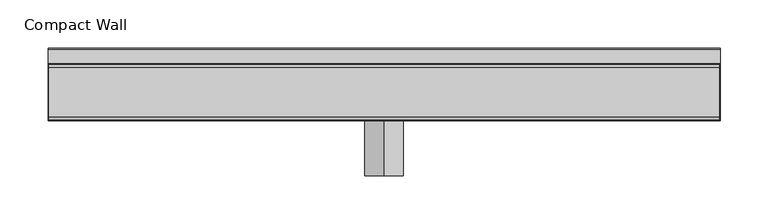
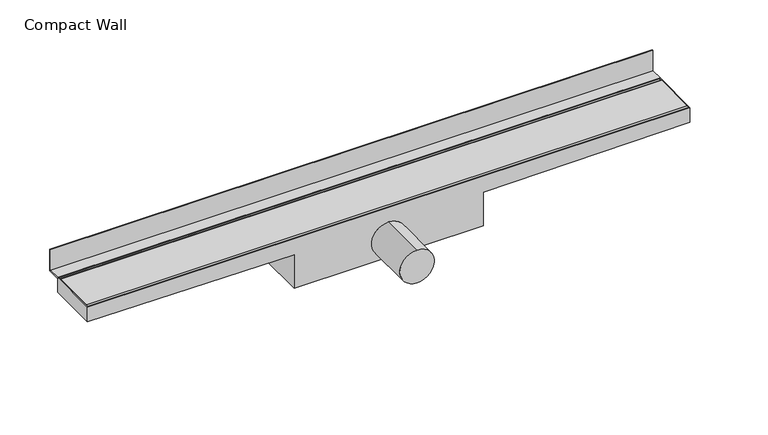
"""IFC4 building model written with IfcOpenShell, lengths in millimetres: sanitary terminal geometry, NLRS_PF_52_UN_Compact_Easydrain : Compact Wall."""

from ifc_helpers import new_model, si_unit, point, frame, frame_2d, origin, place, context, project, spatial, polyline, circle_curve, trimmed, segment, composite_curve, outline, extrude, source, transform, mapped, element, save
from ifc_brep_helpers import plane_surface, cylinder_surface, advanced_brep


def compact_wall_94ad205f(model_context):
    return source(origin(), model_context, "Body", "SolidModel", [
        extrude(outline(composite_curve([segment(polyline([(-25.5, 0.0), (25.5, 0.0)]), True, "CONTINUOUS"), segment(trimmed(circle_curve(frame_2d((25.5, -3.0)), 3.0), [point((25.5, 0.0))], [point((28.5, -3.0))], False, "CARTESIAN"), True, "CONTINUOUS"), segment(polyline([(28.5, -3.0), (28.5, -12.0), (-28.5, -12.0), (-28.5, -3.0)]), True, "CONTINUOUS"), segment(trimmed(circle_curve(frame_2d((-25.5, -3.0)), 3.0), [point((-28.5, -3.0))], [point((-25.5, 0.0))], False, "CARTESIAN"), True, "CONTINUOUS")], self_intersect=False)), frame((-249.0, 0.0, 0.0), z_axis=(1.0, 0.0, 0.0), x_axis=(0.0, 1.0, 0.0)), (0.0, 0.0, 1.0), 698.0),
        extrude(outline(polyline([(46.0, -1.5), (30.0, -1.5), (30.0, 0.0), (44.5, 0.0), (44.5, 25.0), (46.0, 25.0), (46.0, -1.5)])), frame((-250.0, 0.0, 0.0), z_axis=(1.0, 0.0, 0.0), x_axis=(0.0, 1.0, 0.0)), (0.0, 0.0, 1.0), 700.0),
        advanced_brep(
        [(-250.0, -30.0, -18.0), (-10.0, -30.0, -20.0), (-10.0, -30.0, -61.0), (210.0, -30.0, -61.0), (210.0, -30.0, -20.0), (450.0, -30.0, -18.0), (450.0, -30.0, 0.0), (-250.0, -30.0, 0.0), (100.0, -30.0, -18.0), (100.0, -30.0, -58.0), (-250.0, 30.0, -18.0), (-250.0, 30.0, 0.0), (450.0, 30.0, 0.0), (450.0, 30.0, -18.0), (210.0, 30.0, -20.0), (210.0, 30.0, -61.0), (-10.0, 30.0, -61.0), (-10.0, 30.0, -20.0), (-249.0, 29.0, 0.0), (449.0, 29.0, 0.0), (449.0, -29.0, 0.0), (-249.0, -29.0, 0.0), (100.0, -87.0466767, -18.0), (100.0, -87.0466767, -58.0), (449.0, 29.0, -12.0), (-249.0, 29.0, -12.0), (-249.0, -29.0, -12.0), (449.0, -29.0, -12.0)],
        [
            (0, 1),
            (1, 2),
            (2, 3),
            (3, 4),
            (4, 5),
            (5, 6),
            (6, 7),
            (7, 0),
            (8, 9, circle_curve(frame((100.0, -30.0, -38.0), z_axis=(0.0, 1.0, 0.0), x_axis=(0.0, 0.0, -1.0)), 20.0)),
            (9, 8, circle_curve(frame((100.0, -30.0, -38.0), z_axis=(0.0, 1.0, 0.0), x_axis=(0.0, 0.0, -1.0)), 20.0)),
            (10, 11),
            (11, 12),
            (12, 13),
            (13, 14),
            (14, 15),
            (15, 16),
            (16, 17),
            (17, 10),
            (0, 10),
            (17, 1),
            (5, 13),
            (12, 6),
            (11, 7),
            (18, 19),
            (19, 20),
            (20, 21),
            (21, 18),
            (16, 2),
            (15, 3),
            (14, 4),
            (22, 23, circle_curve(frame((100.0, -87.0466767, -38.0), z_axis=(0.0, -1.0, 0.0), x_axis=(0.0, 0.0, -1.0)), 20.0)),
            (23, 22, circle_curve(frame((100.0, -87.0466767, -38.0), z_axis=(0.0, -1.0, 0.0), x_axis=(0.0, 0.0, -1.0)), 20.0)),
            (23, 9),
            (8, 22),
            (24, 25),
            (25, 26),
            (26, 27),
            (27, 24),
            (24, 19),
            (18, 25),
            (21, 26),
            (20, 27),
        ],
        [
            plane_surface(frame((-250.0, -30.0, -18.0), z_axis=(0.0, -1.0, 0.0), x_axis=(0.9999652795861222, 0.0, -0.008333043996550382))),
            plane_surface(frame((-250.0, 30.0, -18.0), z_axis=(0.0, 1.0, 0.0), x_axis=(-0.9999652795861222, 0.0, 0.008333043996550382))),
            plane_surface(frame((-250.0, -30.0, -18.0), z_axis=(-0.008333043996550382, 0.0, -0.9999652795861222), x_axis=(0.0, 1.0, 0.0))),
            plane_surface(frame((450.0, -30.0, -18.0), z_axis=(1.0, 0.0, 0.0), x_axis=(0.0, 1.0, 0.0))),
            plane_surface(frame((450.0, -30.0, 0.0), z_axis=(0.0, 0.0, 1.0), x_axis=(0.0, 1.0, 0.0))),
            plane_surface(frame((-250.0, -30.0, 0.0), z_axis=(-1.0, 0.0, 0.0), x_axis=(0.0, 1.0, 0.0))),
            plane_surface(frame((-10.0, -30.0, -20.0), z_axis=(-1.0, 0.0, 0.0), x_axis=(0.0, 1.0, 0.0))),
            plane_surface(frame((-10.0, -30.0, -61.0), z_axis=(0.0, 0.0, -1.0), x_axis=(0.0, 1.0, 0.0))),
            plane_surface(frame((210.0, -30.0, -61.0), z_axis=(1.0, 0.0, 0.0), x_axis=(0.0, 1.0, 0.0))),
            plane_surface(frame((210.0, -30.0, -20.0), z_axis=(0.008333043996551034, 0.0, -0.9999652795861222), x_axis=(0.0, 1.0, 0.0))),
            plane_surface(frame((100.0, -87.0466767, -38.0), z_axis=(0.0, -1.0, 0.0), x_axis=(1.0, 0.0, 0.0))),
            cylinder_surface(frame((100.0, 0.0, -38.0), z_axis=(0.0, 1.0, 0.0), x_axis=(0.0, 0.0, -1.0)), 20.0),
            plane_surface(frame((-249.0, 29.0, -12.0), z_axis=(0.0, 0.0, 1.0), x_axis=(1.0, 0.0, 0.0))),
            plane_surface(frame((449.0, 29.0, 0.0), z_axis=(0.0, -1.0, 0.0), x_axis=(0.0, 0.0, -1.0))),
            plane_surface(frame((-249.0, 29.0, 0.0), z_axis=(1.0, 0.0, 0.0), x_axis=(0.0, 0.0, -1.0))),
            plane_surface(frame((-249.0, -29.0, 0.0), z_axis=(0.0, 1.0, 0.0), x_axis=(0.0, 0.0, -1.0))),
            plane_surface(frame((449.0, -29.0, 0.0), z_axis=(-1.0, 0.0, 0.0), x_axis=(0.0, 0.0, -1.0))),
        ],
        [
            (0, [[1, 2, 3, 4, 5, 6, 7, 8], [9, 10]]),
            (1, [[11, 12, 13, 14, 15, 16, 17, 18]]),
            (2, [[-1, 19, -18, 20]]),
            (3, [[-6, 21, -13, 22]]),
            (4, [[-7, -22, -12, 23], [24, 25, 26, 27]]),
            (5, [[-8, -23, -11, -19]]),
            (6, [[-2, -20, -17, 28]]),
            (7, [[-3, -28, -16, 29]]),
            (8, [[-4, -29, -15, 30]]),
            (9, [[-5, -30, -14, -21]]),
            (10, [[31, 32]]),
            (11, [[-32, 33, -9, 34]]),
            (11, [[-31, -34, -10, -33]]),
            (12, [[35, 36, 37, 38]]),
            (13, [[-35, 39, -24, 40]]),
            (14, [[-36, -40, -27, 41]]),
            (15, [[-37, -41, -26, 42]]),
            (16, [[-38, -42, -25, -39]]),
        ],
    ),
    ])


if __name__ == "__main__":
    model = new_model("IFC4")
    model_context = context("Model", 3, world=origin())
    ifc_project = project(units=[si_unit("LENGTHUNIT", "METRE", prefix="MILLI")], contexts=[model_context])
    site = spatial("IfcSite", under=ifc_project)
    building = spatial("IfcBuilding", under=site)
    placement = place(None, origin())
    compact_wall_shape = compact_wall_94ad205f(model_context)
    element("IfcSanitaryTerminal", 1, ObjectType="NLRS_PF_52_UN_Compact_Easydrain : Compact Wall", at=placement, inside=building, context=model_context, shape_type="MappedRepresentation", body=[
        mapped(compact_wall_shape, transform((0.0, 0.0, 0.0), x_axis=(1.0, 0.0, 0.0), y_axis=(0.0, 1.0, 0.0), z_axis=(0.0, 0.0, 1.0))),
    ])
    save(model, "model.ifc")
